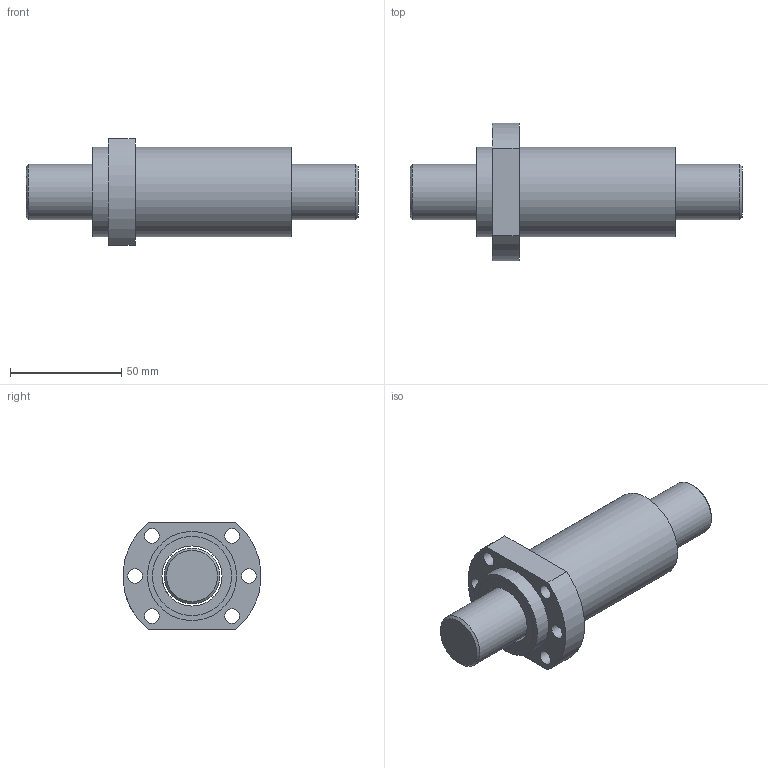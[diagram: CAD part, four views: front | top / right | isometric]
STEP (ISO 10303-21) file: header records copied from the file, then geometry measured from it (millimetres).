
FILE_DESCRIPTION (( 'STEP AP203' ), '1' );
FILE_NAME ('SFNH2525-2.8.STEP', '2023-07-28T02:14:09', ( '' ), ( '' ), 'SwSTEP 2.0', 'SolidWorks 2022', '' );
FILE_SCHEMA (( 'CONFIG_CONTROL_DESIGN' ));
Length unit declared in the file: millimetre
Products named in the file (1): SFNH2525-2.8
Bounding box: 149 x 61.8 x 48 mm (x, y, z)
Volume: 147836.4 mm3; surface area: 42977.7 mm2
Topology: 4 solids, 4 shells, 62 faces, 124 edges, 82 vertices
Faces by surface type: cylinder 33, plane 23, cone 3, bspline 3
Full cylindrical faces by diameter (mm): 4 x1, 5 x5, 6.6 x6, 25 x1, 27 x3, 32 x4, 35.5 x4, 37 x4, 40 x2
Entity records: 2516 total; most frequent: CARTESIAN_POINT 1352, DIRECTION 234, ORIENTED_EDGE 154, EDGE_LOOP 118, AXIS2_PLACEMENT_3D 111, FACE_OUTER_BOUND 83, EDGE_CURVE 77, VERTEX_POINT 69
